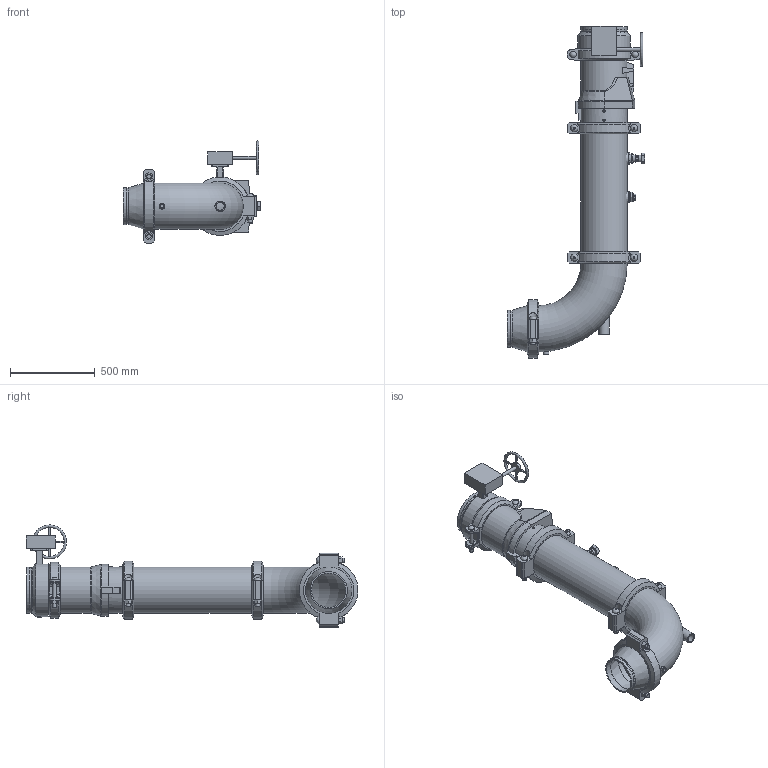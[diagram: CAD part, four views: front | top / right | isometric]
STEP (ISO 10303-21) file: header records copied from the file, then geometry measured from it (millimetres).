
FILE_DESCRIPTION(/* description */ ('VIC DVI PUMP DROP HORZ S/380G (OGSxOGS)','CAx-IF Rec.Pracs.---Representation and Presentation of Product Manufacturing Information (PMI)---4.0---2014-10-13'),/* implementation_level */ '2;1');
FILE_NAME(/* name */ 'C:\Users\kkamble\AppData\Roaming\Autodesk\ApplicationPlugins\Victaulic.Temp\A789\Victaulic_IPS_Horizontal DVI_CL 150_Series 380 (OGSxOGS)_924 (1.25)_10.0x08.0 (250x200).stp',/* time_stamp */ '2021-07-06T09:54:25+05:00',/* author */ ('Vjadhav'),/* organization */ ('Victaulic'),/* preprocessor_version */ 'ST-DEVELOPER v17.2',/* originating_system */ 'Autodesk Inventor 2019',/* authorisation */ '');
FILE_SCHEMA (('AP242_MANAGED_MODEL_BASED_3D_ENGINEERING_MIM_LF { 1 0 10303 442 1 1 4 }'));
Length unit declared in the file: inch
Products named in the file (10): 380_924 (1.25)-10.0x08.0; Pipe-10.0x08.0; 107N-10.0; 924-10.0x01.25; 923-10.0x0.75; 779-10.0; 761-10.0; 077-10.0; 100G-10.0; 050-10.0x08.0
Assembly tree (11 placements, depth 2):
  380_924 (1.25)-10.0x08.0
    Pipe-10.0x08.0
    107N-10.0
    924-10.0x01.25
    923-10.0x0.75
    779-10.0
    761-10.0
    077-10.0  x3
    100G-10.0
    050-10.0x08.0
Bounding box: 814.26 x 1959.6 x 603.11 mm (x, y, z)
Volume: 35305168.2 mm3; surface area: 5219082.2 mm2
Topology: 11 solids, 19 shells, 631 faces, 1575 edges, 1066 vertices
Faces by surface type: plane 360, cylinder 211, bspline 24, cone 24, torus 10, sphere 2
Full cylindrical faces by diameter (mm): 10.922 x4, 12.7 x1, 13.716 x4, 20.066 x1, 20.93 x1, 21.336 x2, 22.225 x4, 22.86 x1, 25.4 x12, 26.67 x4, 27.432 x6, 34.29 x1, 37.694 x2, 38.608 x1, 42.164 x1, 45.974 x4, 48.26 x1, 48.514 x1, 55.626 x2, 60.96 x1, 63.079 x1, 70.104 x1, 76.2 x1, 202.717 x1, 214.401 x1, 219.075 x2, 254.508 x6, 260.35 x1, 264.16 x3, 268.275 x9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
Entity records: 17752 total; most frequent: CARTESIAN_POINT 4114, DIRECTION 2777, ORIENTED_EDGE 2570, EDGE_CURVE 1285, AXIS2_PLACEMENT_3D 1059, VERTEX_POINT 870, LINE 659, VECTOR 659
